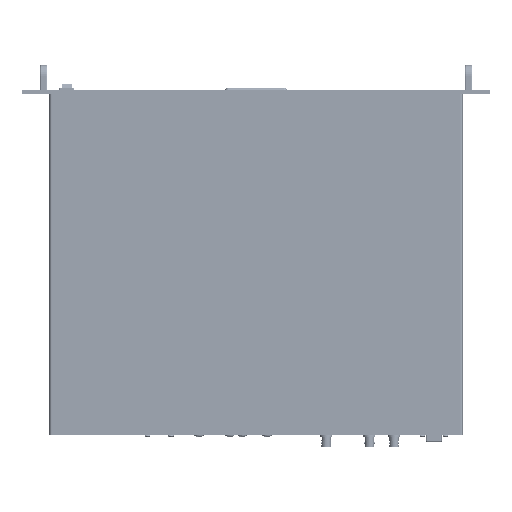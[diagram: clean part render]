
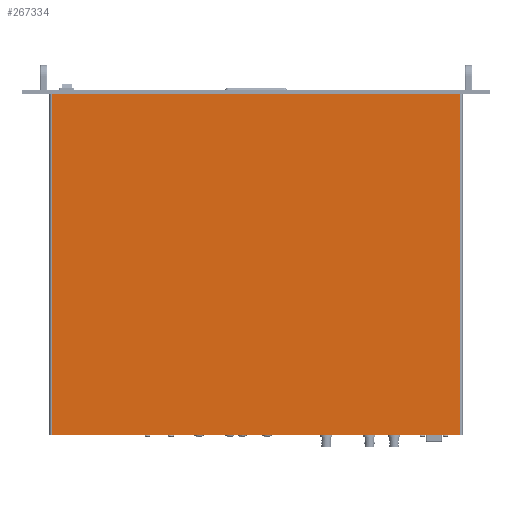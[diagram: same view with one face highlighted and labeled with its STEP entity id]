
A CAD part, front view. The second image highlights one B-rep face of the part: STEP entity #267334.
In plain terms, the highlighted planar face has unit normal (0, -1, 0).
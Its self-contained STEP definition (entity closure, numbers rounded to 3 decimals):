
#8718 = VERTEX_POINT ( 'NONE', #119371 ) ;
#11445 = CARTESIAN_POINT ( 'NONE',  ( 210.102, 0., 175.419 ) ) ;
#13006 = CARTESIAN_POINT ( 'NONE',  ( -210.896, 0., 175.419 ) ) ;
#13898 = DIRECTION ( 'NONE',  ( 0., 0., -1. ) ) ;
#14236 = DIRECTION ( 'NONE',  ( 1., 0., 0. ) ) ;
#42686 = ORIENTED_EDGE ( 'NONE', *, *, #306886, .F. ) ;
#45678 = VECTOR ( 'NONE', #13898, 1000. ) ;
#45996 = VERTEX_POINT ( 'NONE', #351086 ) ;
#63971 = CARTESIAN_POINT ( 'NONE',  ( -210.102, 0., 175.419 ) ) ;
#73834 = DIRECTION ( 'NONE',  ( 0., 0., 1. ) ) ;
#87242 = CARTESIAN_POINT ( 'NONE',  ( -210.896, 0., -175.419 ) ) ;
#99911 = EDGE_LOOP ( 'NONE', ( #361406, #42686, #315965, #125240 ) ) ;
#105269 = VERTEX_POINT ( 'NONE', #112500 ) ;
#107559 = PLANE ( 'NONE',  #293154 ) ;
#112500 = CARTESIAN_POINT ( 'NONE',  ( 210.102, 0., 175.419 ) ) ;
#119371 = CARTESIAN_POINT ( 'NONE',  ( 210.102, 0., -175.419 ) ) ;
#121082 = EDGE_CURVE ( 'NONE', #45996, #191937, #248948, .T. ) ;
#125240 = ORIENTED_EDGE ( 'NONE', *, *, #201487, .F. ) ;
#125632 = LINE ( 'NONE', #87242, #224391 ) ;
#125670 = CARTESIAN_POINT ( 'NONE',  ( -210.102, 0., -175.419 ) ) ;
#130644 = FACE_OUTER_BOUND ( 'NONE', #99911, .T. ) ;
#139851 = LINE ( 'NONE', #11445, #45678 ) ;
#173769 = DIRECTION ( 'NONE',  ( -1., 0., 0. ) ) ;
#177335 = VECTOR ( 'NONE', #268855, 1000. ) ;
#191937 = VERTEX_POINT ( 'NONE', #63971 ) ;
#201487 = EDGE_CURVE ( 'NONE', #191937, #105269, #231219, .T. ) ;
#216785 = CARTESIAN_POINT ( 'NONE',  ( -210.896, 0., 175.419 ) ) ;
#224391 = VECTOR ( 'NONE', #173769, 1000. ) ;
#231219 = LINE ( 'NONE', #13006, #339208 ) ;
#245632 = DIRECTION ( 'NONE',  ( 0., 1., 0. ) ) ;
#248948 = LINE ( 'NONE', #125670, #177335 ) ;
#267334 = ADVANCED_FACE ( 'NONE', ( #130644 ), #107559, .F. ) ;
#268855 = DIRECTION ( 'NONE',  ( 0., 0., 1. ) ) ;
#293154 = AXIS2_PLACEMENT_3D ( 'NONE', #216785, #245632, #73834 ) ;
#306886 = EDGE_CURVE ( 'NONE', #8718, #45996, #125632, .T. ) ;
#315965 = ORIENTED_EDGE ( 'NONE', *, *, #365906, .F. ) ;
#339208 = VECTOR ( 'NONE', #14236, 1000. ) ;
#351086 = CARTESIAN_POINT ( 'NONE',  ( -210.102, 0., -175.419 ) ) ;
#361406 = ORIENTED_EDGE ( 'NONE', *, *, #121082, .F. ) ;
#365906 = EDGE_CURVE ( 'NONE', #105269, #8718, #139851, .T. ) ;
